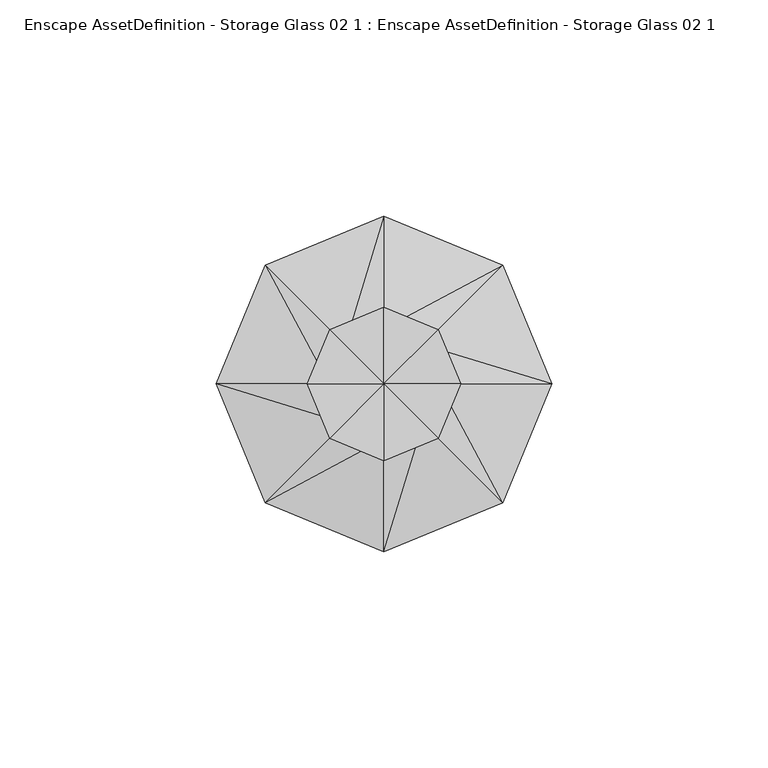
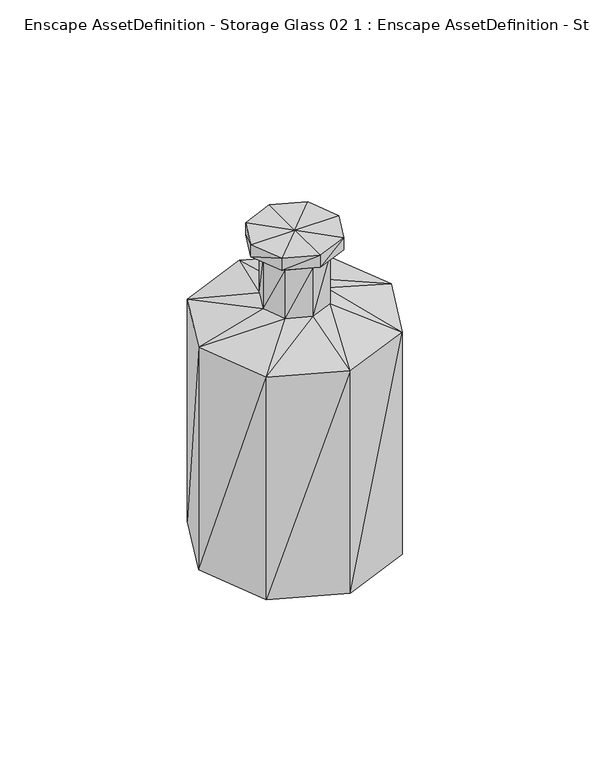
"""IFC4 building model written with IfcOpenShell, lengths in millimetres: geographic element geometry, Enscape AssetDefinition - Storage Glass 02 1 : Enscape AssetDefinition - Storage Glass 02 1."""

from ifc_helpers import new_model, si_unit, origin, place, context, project, spatial, faceted_brep, source, transform, mapped, element, save


def enscape_assetdefinition_storage_glass_02_1_enscape_ec1b0890(model_context):
    return source(origin(), model_context, "Body", "Brep", [
        faceted_brep([(38.8721302, 0.0, 94.9113742), (38.8721302, 0.0, 0.0), (27.4867471, 27.4867471, 94.9113742), (0.0, -2e-06, 0.0), (27.4867471, 27.4867471, 0.0), (27.4867453, -27.4867509, 0.0), (27.4867453, -27.4867509, 94.9113742), (12.8258346, -1.2e-06, 102.328591), (9.0692332, 9.0692332, 102.328591), (5e-07, -38.8721302, 0.0), (5e-07, -38.8721302, 94.9113742), (9.0692332, -9.069236, 102.328591), (12.8258346, -1.2e-06, 123.032093), (9.0692332, 9.0692332, 123.032093), (3e-07, -12.8258364, 102.328591), (9.0692332, -9.069236, 123.032093), (-27.4867434, -27.4867509, 94.9113742), (-27.4867434, -27.4867509, 0.0), (-38.8721302, -3.4e-06, 0.0), (-38.8721302, -3.4e-06, 94.9113742), (-9.0692332, -9.069236, 102.328591), (3e-07, -12.8258364, 123.032093), (-12.8258346, -2.3e-06, 102.328591), (-9.0692332, -9.069236, 123.032093), (-27.4867471, 27.4867471, 94.9113742), (-27.4867471, 27.4867471, 0.0), (-1.7e-06, 38.8721302, 0.0), (-1.7e-06, 38.8721302, 94.9113742), (-9.0692332, 9.0692332, 102.328591), (-12.8258346, -2.3e-06, 123.032093), (-4e-07, 12.8258327, 102.328591), (-9.0692332, 9.0692332, 123.032093), (-4e-07, 12.8258327, 123.032093), (-12.5645874, 12.5645874, 126.2317598), (-17.7690107, -2.3e-06, 126.2317598), (-12.5645874, -12.5645893, 126.2317598), (-17.7690107, -2.3e-06, 131.424278), (-12.5645874, -12.5645893, 131.424278), (-6e-07, 17.7690107, 126.2317598), (-12.5645874, 12.5645874, 131.424278), (0.0, -1.1e-06, 131.424278), (4e-07, -17.7690126, 131.424278), (4e-07, -17.7690126, 126.2317598), (12.5645874, -12.5645893, 126.2317598), (12.5645874, -12.5645893, 131.424278), (17.7690107, -8e-07, 131.424278), (17.7690107, -8e-07, 126.2317598), (12.5645874, 12.5645874, 131.424278), (12.5645874, 12.5645874, 126.2317598), (-6e-07, 17.7690107, 131.424278)], [[[0, 1, 2]], [[3, 4, 1]], [[3, 1, 5]], [[2, 1, 4]], [[0, 5, 1]], [[6, 5, 0]], [[7, 0, 8]], [[8, 0, 2]], [[7, 6, 0]], [[3, 5, 9]], [[6, 9, 5]], [[10, 9, 6]], [[11, 6, 7]], [[11, 10, 6]], [[12, 7, 13]], [[13, 7, 8]], [[12, 11, 7]], [[14, 10, 11]], [[15, 11, 12]], [[15, 14, 11]], [[16, 17, 10]], [[10, 17, 9]], [[14, 16, 10]], [[3, 9, 17]], [[3, 17, 18]], [[16, 18, 17]], [[19, 18, 16]], [[20, 16, 14]], [[20, 19, 16]], [[21, 14, 15]], [[21, 20, 14]], [[22, 19, 20]], [[23, 20, 21]], [[23, 22, 20]], [[24, 25, 19]], [[19, 25, 18]], [[22, 24, 19]], [[3, 18, 25]], [[3, 25, 26]], [[24, 26, 25]], [[3, 26, 4]], [[27, 26, 24]], [[27, 4, 26]], [[28, 24, 22]], [[28, 27, 24]], [[29, 22, 23]], [[29, 28, 22]], [[30, 27, 28]], [[31, 28, 29]], [[31, 30, 28]], [[2, 4, 27]], [[30, 2, 27]], [[8, 2, 30]], [[32, 30, 31]], [[32, 8, 30]], [[33, 31, 34]], [[33, 32, 31]], [[34, 31, 29]], [[34, 29, 35]], [[35, 29, 23]], [[36, 34, 37]], [[36, 33, 34]], [[37, 34, 35]], [[38, 32, 33]], [[39, 33, 36]], [[39, 38, 33]], [[40, 39, 36]], [[40, 36, 37]], [[37, 35, 41]], [[40, 37, 41]], [[35, 23, 42]], [[41, 35, 42]], [[42, 23, 21]], [[42, 21, 43]], [[41, 42, 44]], [[44, 42, 43]], [[40, 41, 44]], [[44, 43, 45]], [[40, 44, 45]], [[43, 15, 46]], [[43, 21, 15]], [[45, 43, 46]], [[45, 46, 47]], [[40, 45, 47]], [[46, 12, 48]], [[46, 15, 12]], [[47, 46, 48]], [[47, 48, 49]], [[40, 47, 49]], [[48, 13, 38]], [[48, 12, 13]], [[49, 48, 38]], [[49, 38, 39]], [[40, 49, 39]], [[38, 13, 32]], [[13, 8, 32]]]),
    ])


if __name__ == "__main__":
    model = new_model("IFC4")
    model_context = context("Model", 3, world=origin())
    ifc_project = project(units=[si_unit("LENGTHUNIT", "METRE", prefix="MILLI")], contexts=[model_context])
    site = spatial("IfcSite", under=ifc_project)
    building = spatial("IfcBuilding", under=site)
    placement = place(None, origin())
    enscape_assetdefinition_storage_glass_02_1_enscape_shape = enscape_assetdefinition_storage_glass_02_1_enscape_ec1b0890(model_context)
    element("IfcGeographicElement", 1, ObjectType="Enscape AssetDefinition - Storage Glass 02 1 : Enscape AssetDefinition - Storage Glass 02 1", at=placement, inside=building, context=model_context, shape_type="MappedRepresentation", body=[
        mapped(enscape_assetdefinition_storage_glass_02_1_enscape_shape, transform((0.0, 0.0, 0.0), x_axis=(1.0, 0.0, 0.0), y_axis=(0.0, 1.0, 0.0), z_axis=(0.0, 0.0, 1.0))),
    ])
    save(model, "model.ifc")
